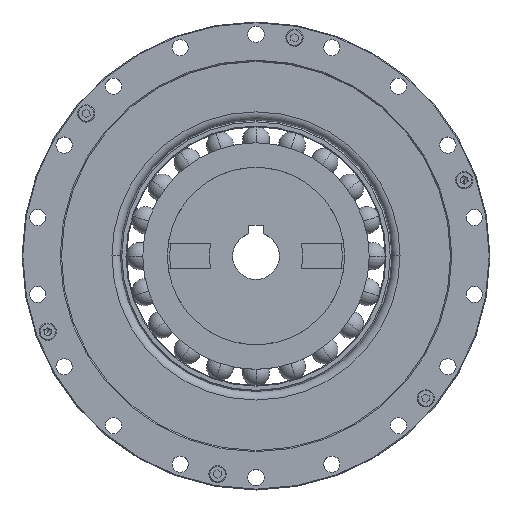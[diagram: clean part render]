
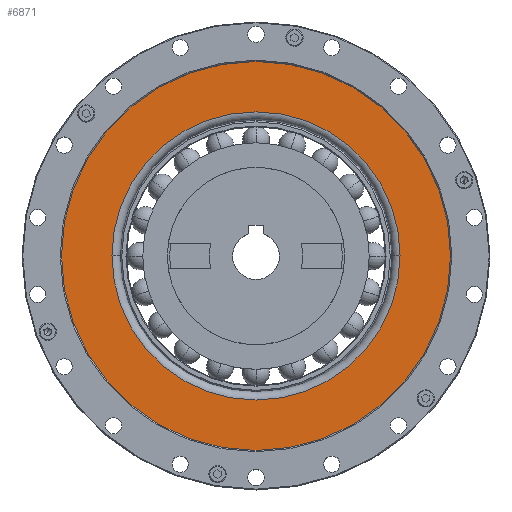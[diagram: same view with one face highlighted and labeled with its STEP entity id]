
A CAD part, top view. The second image highlights one B-rep face of the part: STEP entity #6871.
In plain terms, the highlighted planar face has unit normal (0, 0, 1).
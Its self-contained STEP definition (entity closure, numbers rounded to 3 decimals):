
#72 = AXIS2_PLACEMENT_3D ( 'NONE', #10405, #10621, #11008 ) ;
#563 = VERTEX_POINT ( 'NONE', #4328 ) ;
#847 = CARTESIAN_POINT ( 'NONE',  ( 17.715, 46.575, 196.2 ) ) ;
#1146 = EDGE_CURVE ( 'NONE', #563, #2708, #11650, .T. ) ;
#1311 = DIRECTION ( 'NONE',  ( 0., 0., -1. ) ) ;
#1464 = CARTESIAN_POINT ( 'NONE',  ( 17.715, -8.636, 196.2 ) ) ;
#1515 = DIRECTION ( 'NONE',  ( 0., 0., -1. ) ) ;
#1625 = DIRECTION ( 'NONE',  ( -1., 0., 0. ) ) ;
#1679 = PLANE ( 'NONE',  #2062 ) ;
#2062 = AXIS2_PLACEMENT_3D ( 'NONE', #847, #1311, #3804 ) ;
#2708 = VERTEX_POINT ( 'NONE', #14048 ) ;
#3126 = CARTESIAN_POINT ( 'NONE',  ( 17.715, -8.636, 196.2 ) ) ;
#3173 = DIRECTION ( 'NONE',  ( 0., 0., 1. ) ) ;
#3229 = DIRECTION ( 'NONE',  ( 1., 0., 0. ) ) ;
#3375 = ORIENTED_EDGE ( 'NONE', *, *, #7429, .T. ) ;
#3522 = ORIENTED_EDGE ( 'NONE', *, *, #14473, .T. ) ;
#3681 = ORIENTED_EDGE ( 'NONE', *, *, #1146, .T. ) ;
#3804 = DIRECTION ( 'NONE',  ( -1., 0., 0. ) ) ;
#4328 = CARTESIAN_POINT ( 'NONE',  ( 76.226, -8.636, 196.2 ) ) ;
#4383 = EDGE_CURVE ( 'NONE', #2708, #563, #10268, .T. ) ;
#4851 = AXIS2_PLACEMENT_3D ( 'NONE', #1464, #1515, #1625 ) ;
#5096 = ORIENTED_EDGE ( 'NONE', *, *, #4383, .T. ) ;
#5682 = CARTESIAN_POINT ( 'NONE',  ( 17.715, -8.636, 196.2 ) ) ;
#5894 = AXIS2_PLACEMENT_3D ( 'NONE', #5682, #13731, #6847 ) ;
#6139 = CARTESIAN_POINT ( 'NONE',  ( -61.285, -8.636, 196.2 ) ) ;
#6847 = DIRECTION ( 'NONE',  ( 1., 0., 0. ) ) ;
#6871 = ADVANCED_FACE ( 'NONE', ( #7450, #13247 ), #1679, .F. ) ;
#7429 = EDGE_CURVE ( 'NONE', #9855, #14240, #11104, .T. ) ;
#7450 = FACE_BOUND ( 'NONE', #8393, .T. ) ;
#8393 = EDGE_LOOP ( 'NONE', ( #5096, #3681 ) ) ;
#8669 = CARTESIAN_POINT ( 'NONE',  ( 96.715, -8.636, 196.2 ) ) ;
#9855 = VERTEX_POINT ( 'NONE', #6139 ) ;
#10268 = CIRCLE ( 'NONE', #4851, 58.511 ) ;
#10405 = CARTESIAN_POINT ( 'NONE',  ( 17.715, -8.636, 196.2 ) ) ;
#10621 = DIRECTION ( 'NONE',  ( 0., 0., -1. ) ) ;
#11008 = DIRECTION ( 'NONE',  ( -1., 0., 0. ) ) ;
#11104 = CIRCLE ( 'NONE', #14442, 79. ) ;
#11650 = CIRCLE ( 'NONE', #72, 58.511 ) ;
#12944 = EDGE_LOOP ( 'NONE', ( #3522, #3375 ) ) ;
#13030 = CIRCLE ( 'NONE', #5894, 79. ) ;
#13247 = FACE_OUTER_BOUND ( 'NONE', #12944, .T. ) ;
#13731 = DIRECTION ( 'NONE',  ( 0., 0., 1. ) ) ;
#14048 = CARTESIAN_POINT ( 'NONE',  ( -40.796, -8.636, 196.2 ) ) ;
#14240 = VERTEX_POINT ( 'NONE', #8669 ) ;
#14442 = AXIS2_PLACEMENT_3D ( 'NONE', #3126, #3173, #3229 ) ;
#14473 = EDGE_CURVE ( 'NONE', #14240, #9855, #13030, .T. ) ;
